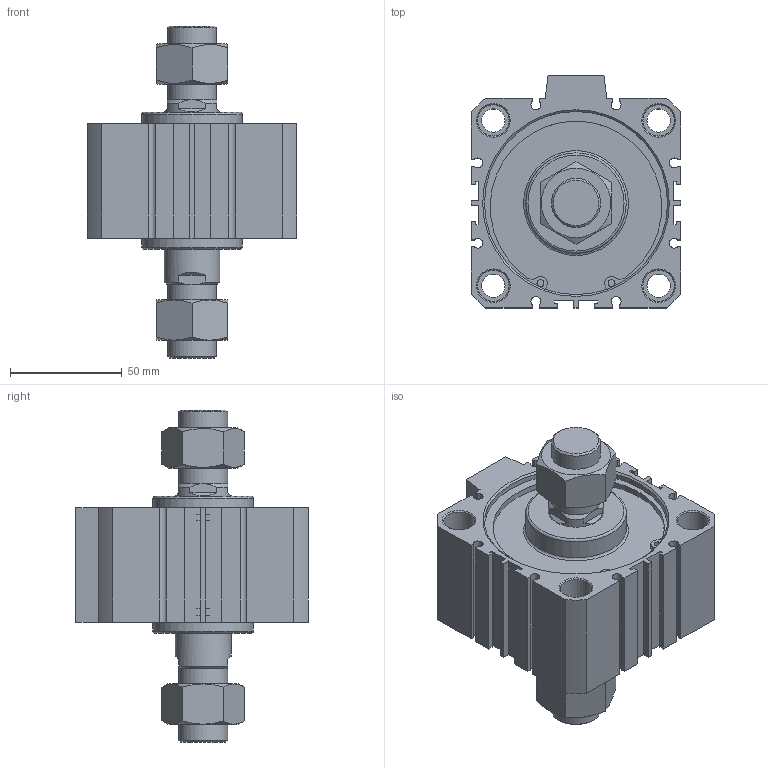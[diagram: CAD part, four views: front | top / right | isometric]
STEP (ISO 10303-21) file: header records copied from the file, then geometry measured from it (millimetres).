
FILE_DESCRIPTION((''),'2;1');
FILE_NAME('I:\3D電子目錄\氣缸\JDD\JDD-B\JDD80-B\JDD80x10-B.stp','2007-02-13T16:46:32',('662F206'),(''),'Autodesk Inventor 10','Autodesk Inventor 10','');
FILE_SCHEMA(('AUTOMOTIVE_DESIGN { 1 0 10303 214 1 1 1 1 }'));
Length unit declared in the file: millimetre
Products named in the file (3): JDD80-B; R 形環 82
Assembly tree (3 placements, depth 2):
  JDD80-B
    JDD80-B
    R 形環 82  x2
Bounding box: 94 x 104 x 148.7 mm (x, y, z)
Volume: 450101.5 mm3; surface area: 76775.4 mm2
Topology: 3 solids, 3 shells, 226 faces, 548 edges, 354 vertices
Faces by surface type: plane 130, cylinder 56, cone 36, bspline 2, torus 2
Full cylindrical faces by diameter (mm): 3.1 x4, 3.5 x2, 10.4 x4, 14 x8, 22 x4, 25 x2, 45 x2, 82 x4, 85.5 x2
Entity records: 6033 total; most frequent: CARTESIAN_POINT 1188, DIRECTION 994, ORIENTED_EDGE 916, EDGE_CURVE 458, AXIS2_PLACEMENT_3D 366, VERTEX_POINT 326, EDGE_LOOP 304, VECTOR 262
